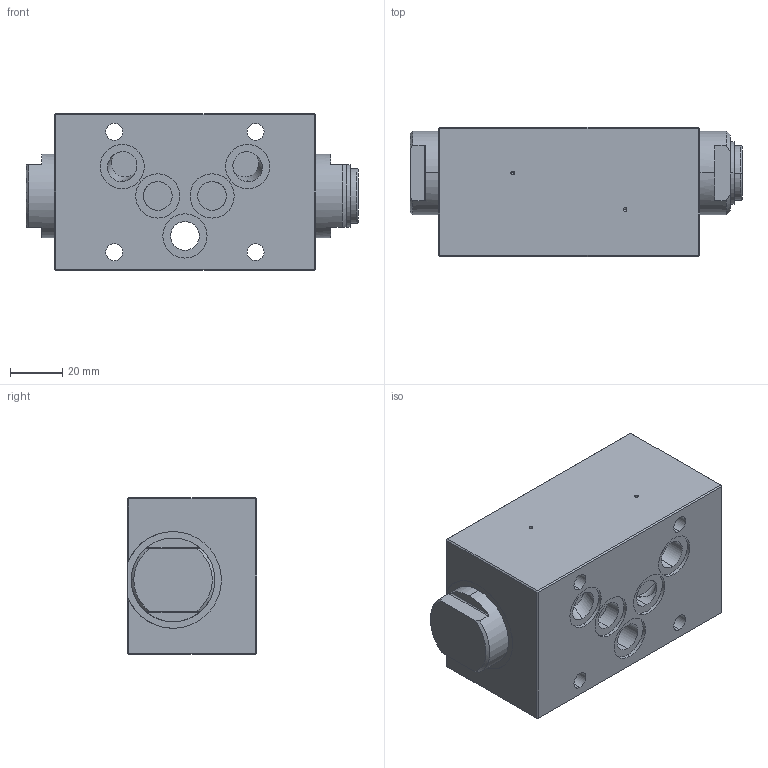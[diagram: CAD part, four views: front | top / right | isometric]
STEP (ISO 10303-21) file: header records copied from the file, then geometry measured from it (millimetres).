
FILE_DESCRIPTION (( 'STEP AP214' ), '1' );
FILE_NAME ('AERVB10.STEP', '2017-05-08T11:56:36', ( '' ), ( '' ), 'SwSTEP 2.0', 'SolidWorks 2016', '' );
FILE_SCHEMA (( 'AUTOMOTIVE_DESIGN' ));
Length unit declared in the file: millimetre
Products named in the file (1): AERVB10
Bounding box: 127 x 49.5 x 60 mm (x, y, z)
Volume: 297166.2 mm3; surface area: 38025.8 mm2
Topology: 1 solids, 1 shells, 141 faces, 338 edges, 213 vertices
Faces by surface type: cylinder 61, plane 59, cone 19, torus 2
Entity records: 5694 total; most frequent: CARTESIAN_POINT 1024, DIRECTION 674, ORIENTED_EDGE 664, EDGE_CURVE 332, AXIS2_PLACEMENT_3D 261, VERTEX_POINT 213, EDGE_LOOP 171, VECTOR 152
